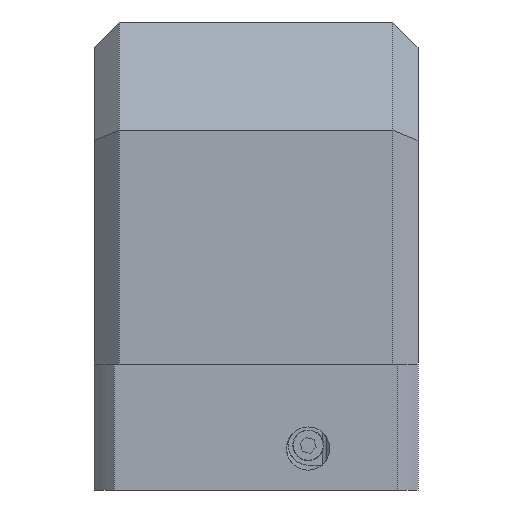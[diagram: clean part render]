
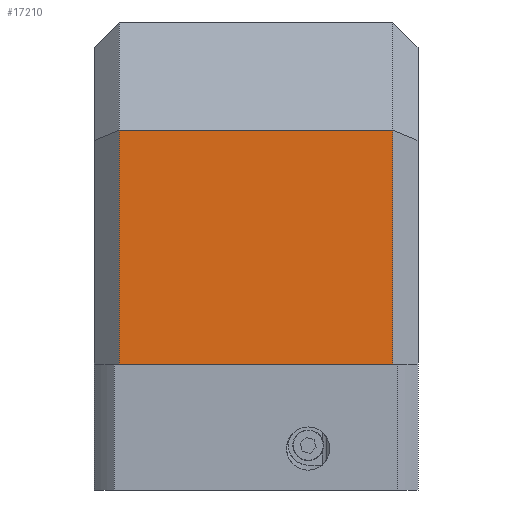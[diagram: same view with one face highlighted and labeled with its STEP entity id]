
A CAD part, front view. The second image highlights one B-rep face of the part: STEP entity #17210.
In plain terms, the highlighted planar face has unit normal (0, -1, 0).
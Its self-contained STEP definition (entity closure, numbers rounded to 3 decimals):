
#2179 = VECTOR ( 'NONE', #13985, 1000. ) ;
#2573 = EDGE_CURVE ( 'NONE', #3851, #18076, #15859, .T. ) ;
#2600 = CARTESIAN_POINT ( 'NONE',  ( 45., -45., -50. ) ) ;
#3556 = EDGE_CURVE ( 'NONE', #16542, #3851, #7478, .T. ) ;
#3851 = VERTEX_POINT ( 'NONE', #16394 ) ;
#4079 = ORIENTED_EDGE ( 'NONE', *, *, #2573, .T. ) ;
#4153 = FACE_OUTER_BOUND ( 'NONE', #18343, .T. ) ;
#4581 = CARTESIAN_POINT ( 'NONE',  ( -38., -45., 45. ) ) ;
#5717 = AXIS2_PLACEMENT_3D ( 'NONE', #18581, #20257, #10483 ) ;
#5966 = LINE ( 'NONE', #2600, #2179 ) ;
#6299 = ORIENTED_EDGE ( 'NONE', *, *, #3556, .T. ) ;
#7253 = PLANE ( 'NONE',  #5717 ) ;
#7478 = LINE ( 'NONE', #17197, #19951 ) ;
#8130 = CARTESIAN_POINT ( 'NONE',  ( -38., -45., -50. ) ) ;
#9251 = DIRECTION ( 'NONE',  ( -1., 0., 0. ) ) ;
#9316 = CARTESIAN_POINT ( 'NONE',  ( 45., -45., 15. ) ) ;
#9474 = DIRECTION ( 'NONE',  ( 0., 0., -1. ) ) ;
#10483 = DIRECTION ( 'NONE',  ( 1., 0., 0. ) ) ;
#13275 = CARTESIAN_POINT ( 'NONE',  ( 38., -45., -50. ) ) ;
#13832 = DIRECTION ( 'NONE',  ( 0., 0., 1. ) ) ;
#13985 = DIRECTION ( 'NONE',  ( -1., 0., 0. ) ) ;
#14676 = CARTESIAN_POINT ( 'NONE',  ( -38., -45., 15. ) ) ;
#14755 = ORIENTED_EDGE ( 'NONE', *, *, #15596, .F. ) ;
#15529 = ORIENTED_EDGE ( 'NONE', *, *, #17942, .T. ) ;
#15596 = EDGE_CURVE ( 'NONE', #16542, #17554, #5966, .T. ) ;
#15859 = LINE ( 'NONE', #9316, #19715 ) ;
#16394 = CARTESIAN_POINT ( 'NONE',  ( 38., -45., 15. ) ) ;
#16542 = VERTEX_POINT ( 'NONE', #13275 ) ;
#17197 = CARTESIAN_POINT ( 'NONE',  ( 38., -45., 15. ) ) ;
#17210 = ADVANCED_FACE ( 'NONE', ( #4153 ), #7253, .F. ) ;
#17554 = VERTEX_POINT ( 'NONE', #8130 ) ;
#17942 = EDGE_CURVE ( 'NONE', #18076, #17554, #20760, .T. ) ;
#18076 = VERTEX_POINT ( 'NONE', #14676 ) ;
#18343 = EDGE_LOOP ( 'NONE', ( #4079, #15529, #14755, #6299 ) ) ;
#18581 = CARTESIAN_POINT ( 'NONE',  ( 45., -45., 45. ) ) ;
#19715 = VECTOR ( 'NONE', #9251, 1000. ) ;
#19951 = VECTOR ( 'NONE', #13832, 1000. ) ;
#20256 = VECTOR ( 'NONE', #9474, 1000. ) ;
#20257 = DIRECTION ( 'NONE',  ( 0., 1., 0. ) ) ;
#20760 = LINE ( 'NONE', #4581, #20256 ) ;
